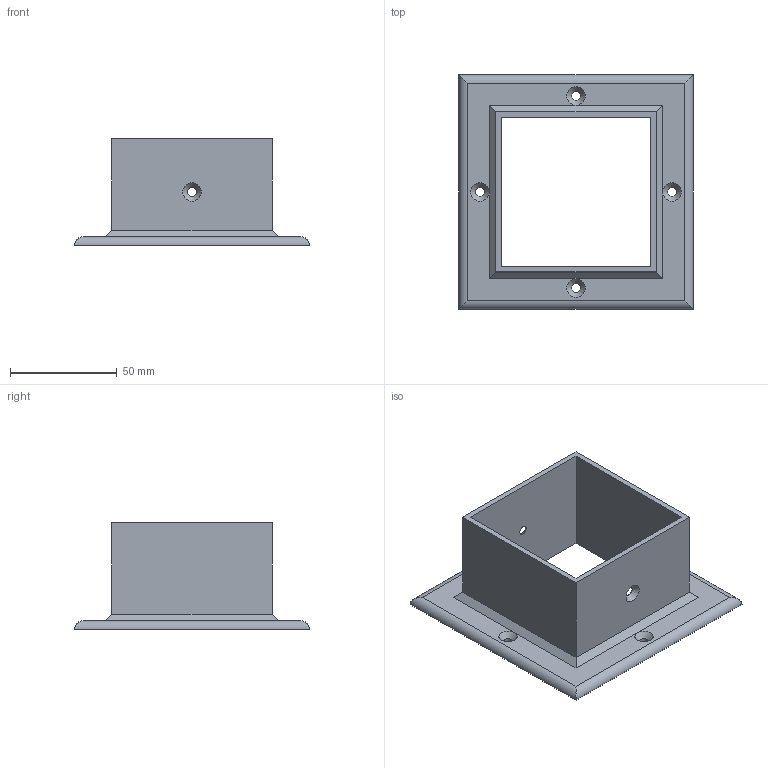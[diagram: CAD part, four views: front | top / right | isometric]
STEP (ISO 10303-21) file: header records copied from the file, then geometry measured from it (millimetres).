
FILE_DESCRIPTION(/* description */ ('STEP AP242 Edition 2','CAx-IF Rec.Pracs.---Representation and Presentation of Product Manufacturing Information (PMI)---4.0---2014-10-13','CAx-IF Rec.Pracs.---3D Tessellated Geometry---0.4---2014-09-14','2;1','CAx-IF Rec.Pracs.---User Defined Attributes---1.5---2016-08-15'),/* implementation_level */ '2;1');
FILE_NAME(/* name */ '696d26273ac180f611736a79',/* time_stamp */ '2026-01-18T18:27:52Z',/* author */ (''),/* organization */ (''),/* preprocessor_version */ 'ST-DEVELOPER v20',/* originating_system */ 'ONSHAPE BY PTC INC, 1.209',/* authorisation */ ' ');
FILE_SCHEMA (('AP242_MANAGED_MODEL_BASED_3D_ENGINEERING_MIM_LF { 1 0 10303 442 3 1 4 }'));
Length unit declared in the file: metre
Products named in the file (1): Part 1
Bounding box: 110 x 110 x 50 mm (x, y, z)
Volume: 61460 mm3; surface area: 42733.1 mm2
Topology: 1 solids, 1 shells, 29 faces, 75 edges, 49 vertices
Faces by surface type: plane 15, cylinder 8, cone 6
Full cylindrical faces by diameter (mm): 4.089 x4
Entity records: 840 total; most frequent: DIRECTION 140, CARTESIAN_POINT 134, ORIENTED_EDGE 120, EDGE_CURVE 60, EDGE_LOOP 54, FACE_BOUND 54, AXIS2_PLACEMENT_3D 50, VERTEX_POINT 44
